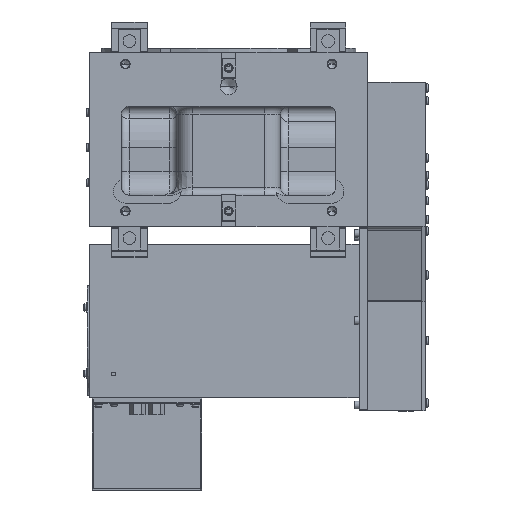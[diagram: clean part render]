
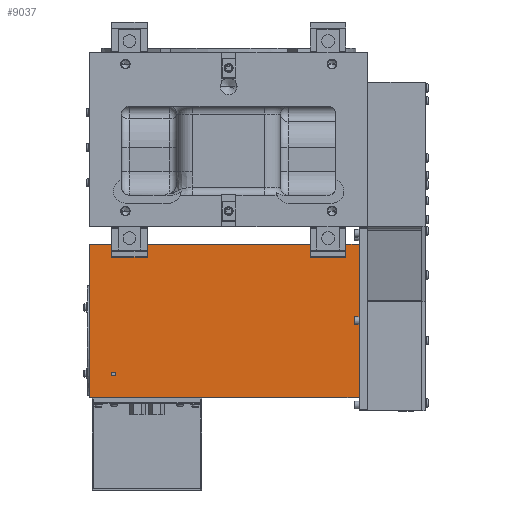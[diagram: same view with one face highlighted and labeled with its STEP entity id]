
A CAD part, front view. The second image highlights one B-rep face of the part: STEP entity #9037.
In plain terms, the highlighted planar face has unit normal (0, -1, 0).
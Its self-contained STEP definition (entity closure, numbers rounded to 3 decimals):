
#667 = EDGE_CURVE ( 'NONE', #2870, #34271, #1857, .T. ) ;
#1857 = CIRCLE ( 'NONE', #22386, 2.5 ) ;
#2870 = VERTEX_POINT ( 'NONE', #3228 ) ;
#2968 = PLANE ( 'NONE',  #3674 ) ;
#3228 = CARTESIAN_POINT ( 'NONE',  ( -320., 16., -181.5 ) ) ;
#3349 = DIRECTION ( 'NONE',  ( 0., 0., 1. ) ) ;
#3463 = DIRECTION ( 'NONE',  ( 0., 0., -1. ) ) ;
#3674 = AXIS2_PLACEMENT_3D ( 'NONE', #19625, #7170, #36406 ) ;
#3952 = VERTEX_POINT ( 'NONE', #49661 ) ;
#5295 = EDGE_LOOP ( 'NONE', ( #42480, #15538 ) ) ;
#5355 = CARTESIAN_POINT ( 'NONE',  ( -350., 16., -21. ) ) ;
#6587 = VERTEX_POINT ( 'NONE', #43387 ) ;
#6954 = VECTOR ( 'NONE', #7678, 1000. ) ;
#7170 = DIRECTION ( 'NONE',  ( 0., 1., 0. ) ) ;
#7336 = VECTOR ( 'NONE', #31273, 1000. ) ;
#7678 = DIRECTION ( 'NONE',  ( 0., 0., 1. ) ) ;
#8515 = AXIS2_PLACEMENT_3D ( 'NONE', #41282, #16297, #45488 ) ;
#9037 = ADVANCED_FACE ( 'NONE', ( #20440, #52416 ), #2968, .F. ) ;
#9568 = VECTOR ( 'NONE', #34605, 1000. ) ;
#10823 = EDGE_CURVE ( 'NONE', #6587, #38400, #38956, .T. ) ;
#11266 = ORIENTED_EDGE ( 'NONE', *, *, #37680, .T. ) ;
#11947 = CARTESIAN_POINT ( 'NONE',  ( -350., 16., -22. ) ) ;
#12016 = CIRCLE ( 'NONE', #44219, 1. ) ;
#13602 = CARTESIAN_POINT ( 'NONE',  ( -349., 16., -22. ) ) ;
#14249 = CARTESIAN_POINT ( 'NONE',  ( -320., 16., -186.5 ) ) ;
#15538 = ORIENTED_EDGE ( 'NONE', *, *, #667, .F. ) ;
#16297 = DIRECTION ( 'NONE',  ( 0., -1., 0. ) ) ;
#17823 = DIRECTION ( 'NONE',  ( 0., 0., 1. ) ) ;
#18531 = ORIENTED_EDGE ( 'NONE', *, *, #49081, .F. ) ;
#18590 = EDGE_CURVE ( 'NONE', #34271, #2870, #27189, .T. ) ;
#19342 = VERTEX_POINT ( 'NONE', #42678 ) ;
#19625 = CARTESIAN_POINT ( 'NONE',  ( -350., 16., -21. ) ) ;
#20440 = FACE_BOUND ( 'NONE', #5295, .T. ) ;
#21314 = ORIENTED_EDGE ( 'NONE', *, *, #47038, .F. ) ;
#22386 = AXIS2_PLACEMENT_3D ( 'NONE', #53510, #28557, #3463 ) ;
#23049 = CARTESIAN_POINT ( 'NONE',  ( -350., 16., -213. ) ) ;
#23729 = VECTOR ( 'NONE', #3349, 1000. ) ;
#27189 = CIRCLE ( 'NONE', #8515, 2.5 ) ;
#28557 = DIRECTION ( 'NONE',  ( 0., -1., 0. ) ) ;
#31273 = DIRECTION ( 'NONE',  ( 1., 0., 0. ) ) ;
#32779 = CARTESIAN_POINT ( 'NONE',  ( -11., 16., -21. ) ) ;
#34271 = VERTEX_POINT ( 'NONE', #14249 ) ;
#34605 = DIRECTION ( 'NONE',  ( 1., 0., 0. ) ) ;
#34811 = LINE ( 'NONE', #53409, #23729 ) ;
#35777 = ORIENTED_EDGE ( 'NONE', *, *, #46659, .T. ) ;
#36406 = DIRECTION ( 'NONE',  ( 0., 0., 1. ) ) ;
#37680 = EDGE_CURVE ( 'NONE', #3952, #6587, #39316, .T. ) ;
#38400 = VERTEX_POINT ( 'NONE', #41430 ) ;
#38956 = LINE ( 'NONE', #32779, #6954 ) ;
#39316 = LINE ( 'NONE', #23049, #7336 ) ;
#41282 = CARTESIAN_POINT ( 'NONE',  ( -320., 16., -184. ) ) ;
#41430 = CARTESIAN_POINT ( 'NONE',  ( -11., 16., -21. ) ) ;
#41576 = LINE ( 'NONE', #5355, #9568 ) ;
#42480 = ORIENTED_EDGE ( 'NONE', *, *, #18590, .F. ) ;
#42678 = CARTESIAN_POINT ( 'NONE',  ( -349., 16., -21. ) ) ;
#42835 = DIRECTION ( 'NONE',  ( 0., -1., 0. ) ) ;
#43387 = CARTESIAN_POINT ( 'NONE',  ( -11., 16., -213. ) ) ;
#43979 = ORIENTED_EDGE ( 'NONE', *, *, #10823, .T. ) ;
#44219 = AXIS2_PLACEMENT_3D ( 'NONE', #13602, #42835, #17823 ) ;
#44455 = VERTEX_POINT ( 'NONE', #11947 ) ;
#44531 = EDGE_LOOP ( 'NONE', ( #18531, #35777, #21314, #11266, #43979 ) ) ;
#45488 = DIRECTION ( 'NONE',  ( 0., 0., -1. ) ) ;
#46659 = EDGE_CURVE ( 'NONE', #19342, #44455, #12016, .T. ) ;
#47038 = EDGE_CURVE ( 'NONE', #3952, #44455, #34811, .T. ) ;
#49081 = EDGE_CURVE ( 'NONE', #19342, #38400, #41576, .T. ) ;
#49661 = CARTESIAN_POINT ( 'NONE',  ( -350., 16., -213. ) ) ;
#52416 = FACE_OUTER_BOUND ( 'NONE', #44531, .T. ) ;
#53409 = CARTESIAN_POINT ( 'NONE',  ( -350., 16., -21. ) ) ;
#53510 = CARTESIAN_POINT ( 'NONE',  ( -320., 16., -184. ) ) ;
